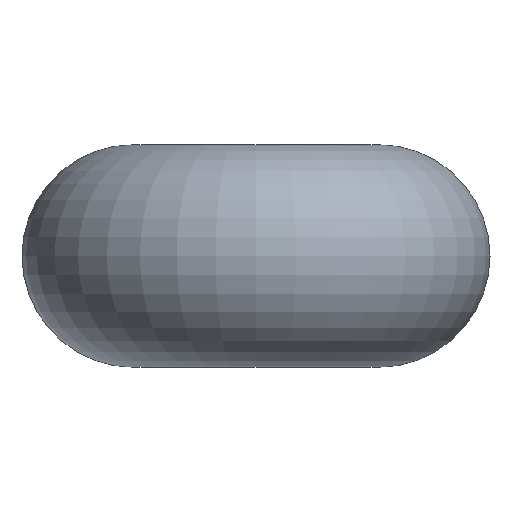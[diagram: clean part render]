
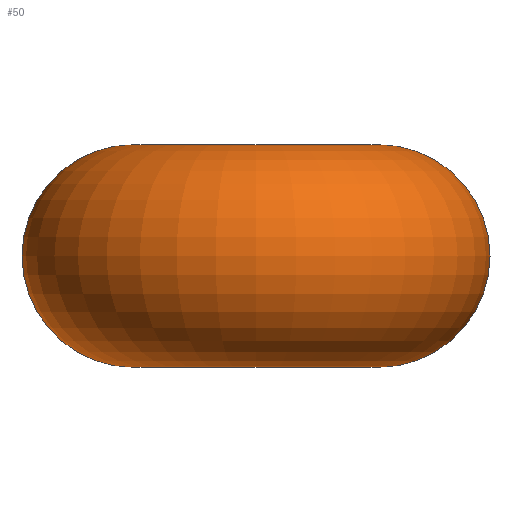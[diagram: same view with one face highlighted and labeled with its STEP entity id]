
A CAD part, left-side view. The second image highlights one B-rep face of the part: STEP entity #50.
In plain terms, the highlighted toroidal (fillet/blend) face has major radius 1.6 mm and minor radius 1.45 mm.
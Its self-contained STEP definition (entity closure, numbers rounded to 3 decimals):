
#49 = EDGE_CURVE ( 'NONE', #54, #134, #291, .T. ) ;
#50 = ADVANCED_FACE ( 'NONE', ( #287 ), #286, .T. ) ;
#51 = EDGE_LOOP ( 'NONE', ( #106, #107, #108, #109, #110, #111 ) ) ;
#53 = EDGE_CURVE ( 'NONE', #54, #55, #284, .T. ) ;
#54 = VERTEX_POINT ( 'NONE', #276 ) ;
#55 = VERTEX_POINT ( 'NONE', #275 ) ;
#77 = EDGE_CURVE ( 'NONE', #134, #80, #182, .T. ) ;
#79 = EDGE_CURVE ( 'NONE', #80, #81, #173, .T. ) ;
#80 = VERTEX_POINT ( 'NONE', #168 ) ;
#81 = VERTEX_POINT ( 'NONE', #167 ) ;
#106 = ORIENTED_EDGE ( 'NONE', *, *, #53, .F. ) ;
#107 = ORIENTED_EDGE ( 'NONE', *, *, #49, .T. ) ;
#108 = ORIENTED_EDGE ( 'NONE', *, *, #77, .T. ) ;
#109 = ORIENTED_EDGE ( 'NONE', *, *, #79, .T. ) ;
#110 = ORIENTED_EDGE ( 'NONE', *, *, #125, .F. ) ;
#111 = ORIENTED_EDGE ( 'NONE', *, *, #112, .F. ) ;
#112 = EDGE_CURVE ( 'NONE', #55, #123, #334, .T. ) ;
#123 = VERTEX_POINT ( 'NONE', #412 ) ;
#125 = EDGE_CURVE ( 'NONE', #123, #81, #411, .T. ) ;
#134 = VERTEX_POINT ( 'NONE', #385 ) ;
#167 = CARTESIAN_POINT ( 'NONE',  ( 1.203, -1.055, 1.45 ) ) ;
#168 = CARTESIAN_POINT ( 'NONE',  ( 2.293, -2.011, 0. ) ) ;
#169 = DIRECTION ( 'NONE',  ( 0., 0., -1. ) ) ;
#170 = DIRECTION ( 'NONE',  ( -0.659, -0.752, 0. ) ) ;
#171 = CARTESIAN_POINT ( 'NONE',  ( 1.203, -1.055, 0. ) ) ;
#172 = AXIS2_PLACEMENT_3D ( 'NONE', #171, #170, #169 ) ;
#173 = CIRCLE ( 'NONE', #172, 1.45 ) ;
#174 = DIRECTION ( 'NONE',  ( 0., 0., -1. ) ) ;
#175 = DIRECTION ( 'NONE',  ( -0.659, -0.752, 0. ) ) ;
#176 = CARTESIAN_POINT ( 'NONE',  ( 1.203, -1.055, 0. ) ) ;
#177 = AXIS2_PLACEMENT_3D ( 'NONE', #176, #175, #174 ) ;
#182 = CIRCLE ( 'NONE', #177, 1.45 ) ;
#191 = CARTESIAN_POINT ( 'NONE',  ( 0., 0., -1.45 ) ) ;
#275 = CARTESIAN_POINT ( 'NONE',  ( 2.293, 2.011, 0. ) ) ;
#276 = CARTESIAN_POINT ( 'NONE',  ( 1.203, 1.055, -1.45 ) ) ;
#277 = DIRECTION ( 'NONE',  ( 0., 0., -1. ) ) ;
#278 = DIRECTION ( 'NONE',  ( 0.659, -0.752, 0. ) ) ;
#279 = CARTESIAN_POINT ( 'NONE',  ( 1.203, 1.055, 0. ) ) ;
#280 = AXIS2_PLACEMENT_3D ( 'NONE', #279, #278, #277 ) ;
#281 = DIRECTION ( 'NONE',  ( 1., 0., 0. ) ) ;
#282 = DIRECTION ( 'NONE',  ( 0., 0., 1. ) ) ;
#283 = AXIS2_PLACEMENT_3D ( 'NONE', #285, #282, #281 ) ;
#284 = CIRCLE ( 'NONE', #280, 1.45 ) ;
#285 = CARTESIAN_POINT ( 'NONE',  ( 0., 0., 0. ) ) ;
#286 = TOROIDAL_SURFACE ( 'NONE', #283, 1.6, 1.45 ) ;
#287 = FACE_OUTER_BOUND ( 'NONE', #51, .T. ) ;
#288 = DIRECTION ( 'NONE',  ( 1., 0., 0. ) ) ;
#289 = DIRECTION ( 'NONE',  ( 0., 0., 1. ) ) ;
#290 = AXIS2_PLACEMENT_3D ( 'NONE', #191, #289, #288 ) ;
#291 = CIRCLE ( 'NONE', #290, 1.6 ) ;
#330 = DIRECTION ( 'NONE',  ( 0., 0., -1. ) ) ;
#331 = DIRECTION ( 'NONE',  ( 0.659, -0.752, 0. ) ) ;
#332 = CARTESIAN_POINT ( 'NONE',  ( 1.203, 1.055, 0. ) ) ;
#333 = AXIS2_PLACEMENT_3D ( 'NONE', #332, #331, #330 ) ;
#334 = CIRCLE ( 'NONE', #333, 1.45 ) ;
#385 = CARTESIAN_POINT ( 'NONE',  ( 1.203, -1.055, -1.45 ) ) ;
#407 = DIRECTION ( 'NONE',  ( 1., 0., 0. ) ) ;
#408 = DIRECTION ( 'NONE',  ( 0., 0., 1. ) ) ;
#409 = CARTESIAN_POINT ( 'NONE',  ( 0., 0., 1.45 ) ) ;
#410 = AXIS2_PLACEMENT_3D ( 'NONE', #409, #408, #407 ) ;
#411 = CIRCLE ( 'NONE', #410, 1.6 ) ;
#412 = CARTESIAN_POINT ( 'NONE',  ( 1.203, 1.055, 1.45 ) ) ;
